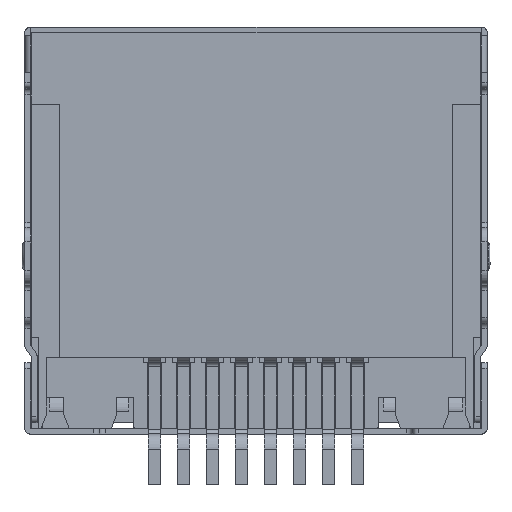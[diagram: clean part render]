
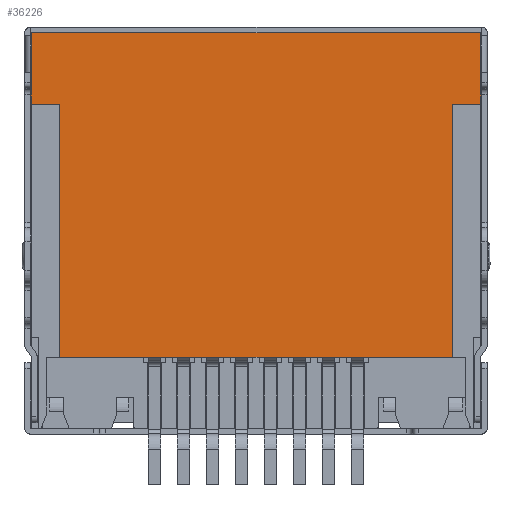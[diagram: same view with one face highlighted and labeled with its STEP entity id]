
A CAD part, front view. The second image highlights one B-rep face of the part: STEP entity #36226.
In plain terms, the highlighted planar face has unit normal (0, -1, 0).
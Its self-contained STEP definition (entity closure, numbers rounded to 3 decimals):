
#740 = VECTOR ( 'NONE', #9401, 1000. ) ;
#898 = VECTOR ( 'NONE', #9974, 1000. ) ;
#1307 = VERTEX_POINT ( 'NONE', #40372 ) ;
#2749 = EDGE_CURVE ( 'NONE', #70753, #61118, #63107, .T. ) ;
#3825 = CARTESIAN_POINT ( 'NONE',  ( 0., -5.45, 13.9 ) ) ;
#4084 = CARTESIAN_POINT ( 'NONE',  ( -8.216, -5.45, 2.272 ) ) ;
#4314 = PLANE ( 'NONE',  #46951 ) ;
#4467 = DIRECTION ( 'NONE',  ( 1., 0., 0. ) ) ;
#5508 = ORIENTED_EDGE ( 'NONE', *, *, #41972, .T. ) ;
#5657 = VECTOR ( 'NONE', #58507, 1000. ) ;
#6308 = ORIENTED_EDGE ( 'NONE', *, *, #37684, .T. ) ;
#9340 = ORIENTED_EDGE ( 'NONE', *, *, #50186, .T. ) ;
#9401 = DIRECTION ( 'NONE',  ( -1., 0., 0. ) ) ;
#9907 = DIRECTION ( 'NONE',  ( 1., 0., 0. ) ) ;
#9974 = DIRECTION ( 'NONE',  ( 1., 0., 0. ) ) ;
#10470 = CARTESIAN_POINT ( 'NONE',  ( -7.9, -5.45, 11.4 ) ) ;
#11709 = ORIENTED_EDGE ( 'NONE', *, *, #67576, .T. ) ;
#14285 = VERTEX_POINT ( 'NONE', #70799 ) ;
#15168 = DIRECTION ( 'NONE',  ( 0., 0., 1. ) ) ;
#15451 = LINE ( 'NONE', #3825, #740 ) ;
#16175 = VECTOR ( 'NONE', #28575, 1000. ) ;
#19668 = ORIENTED_EDGE ( 'NONE', *, *, #60292, .T. ) ;
#20679 = VERTEX_POINT ( 'NONE', #69226 ) ;
#22125 = LINE ( 'NONE', #52934, #5657 ) ;
#23549 = CARTESIAN_POINT ( 'NONE',  ( 7.9, -5.45, 11.4 ) ) ;
#25359 = VERTEX_POINT ( 'NONE', #38785 ) ;
#26758 = DIRECTION ( 'NONE',  ( 1., 0., 0. ) ) ;
#28575 = DIRECTION ( 'NONE',  ( 0., 0., -1. ) ) ;
#30329 = LINE ( 'NONE', #54178, #898 ) ;
#30489 = EDGE_CURVE ( 'NONE', #1307, #20679, #30329, .T. ) ;
#34076 = FACE_OUTER_BOUND ( 'NONE', #36578, .T. ) ;
#36226 = ADVANCED_FACE ( 'NONE', ( #34076 ), #4314, .T. ) ;
#36578 = EDGE_LOOP ( 'NONE', ( #38571, #5508, #11709, #9340, #66858, #6308, #55928, #19668 ) ) ;
#36735 = VECTOR ( 'NONE', #4467, 1000. ) ;
#37684 = EDGE_CURVE ( 'NONE', #25359, #70753, #58244, .T. ) ;
#38571 = ORIENTED_EDGE ( 'NONE', *, *, #30489, .T. ) ;
#38785 = CARTESIAN_POINT ( 'NONE',  ( -7.9, -5.45, 13.9 ) ) ;
#40372 = CARTESIAN_POINT ( 'NONE',  ( -6.9, -5.45, 2.5 ) ) ;
#41972 = EDGE_CURVE ( 'NONE', #20679, #52468, #22125, .T. ) ;
#42245 = CARTESIAN_POINT ( 'NONE',  ( -6.9, -5.45, 11.4 ) ) ;
#42301 = CARTESIAN_POINT ( 'NONE',  ( 6.9, -5.45, 11.4 ) ) ;
#42984 = DIRECTION ( 'NONE',  ( 0., -1., 0. ) ) ;
#44756 = DIRECTION ( 'NONE',  ( 0., 0., -1. ) ) ;
#46951 = AXIS2_PLACEMENT_3D ( 'NONE', #4084, #42984, #9907 ) ;
#48384 = VECTOR ( 'NONE', #26758, 1000. ) ;
#50186 = EDGE_CURVE ( 'NONE', #68435, #14285, #71034, .T. ) ;
#52468 = VERTEX_POINT ( 'NONE', #42301 ) ;
#52934 = CARTESIAN_POINT ( 'NONE',  ( 6.9, -5.45, 8.2 ) ) ;
#54178 = CARTESIAN_POINT ( 'NONE',  ( 0., -5.45, 2.5 ) ) ;
#55928 = ORIENTED_EDGE ( 'NONE', *, *, #2749, .T. ) ;
#56345 = VECTOR ( 'NONE', #15168, 1000. ) ;
#56512 = VECTOR ( 'NONE', #44756, 1000. ) ;
#56838 = LINE ( 'NONE', #61727, #16175 ) ;
#58244 = LINE ( 'NONE', #66777, #56512 ) ;
#58507 = DIRECTION ( 'NONE',  ( 0., 0., 1. ) ) ;
#58755 = EDGE_CURVE ( 'NONE', #14285, #25359, #15451, .T. ) ;
#59176 = CARTESIAN_POINT ( 'NONE',  ( 7.9, -5.45, 8.2 ) ) ;
#60292 = EDGE_CURVE ( 'NONE', #61118, #1307, #56838, .T. ) ;
#61118 = VERTEX_POINT ( 'NONE', #42245 ) ;
#61727 = CARTESIAN_POINT ( 'NONE',  ( -6.9, -5.45, 8.2 ) ) ;
#63107 = LINE ( 'NONE', #65219, #48384 ) ;
#65219 = CARTESIAN_POINT ( 'NONE',  ( 0., -5.45, 11.4 ) ) ;
#66185 = LINE ( 'NONE', #70672, #36735 ) ;
#66777 = CARTESIAN_POINT ( 'NONE',  ( -7.9, -5.45, 8.2 ) ) ;
#66858 = ORIENTED_EDGE ( 'NONE', *, *, #58755, .T. ) ;
#67576 = EDGE_CURVE ( 'NONE', #52468, #68435, #66185, .T. ) ;
#68435 = VERTEX_POINT ( 'NONE', #23549 ) ;
#69226 = CARTESIAN_POINT ( 'NONE',  ( 6.9, -5.45, 2.5 ) ) ;
#70672 = CARTESIAN_POINT ( 'NONE',  ( 0., -5.45, 11.4 ) ) ;
#70753 = VERTEX_POINT ( 'NONE', #10470 ) ;
#70799 = CARTESIAN_POINT ( 'NONE',  ( 7.9, -5.45, 13.9 ) ) ;
#71034 = LINE ( 'NONE', #59176, #56345 ) ;
